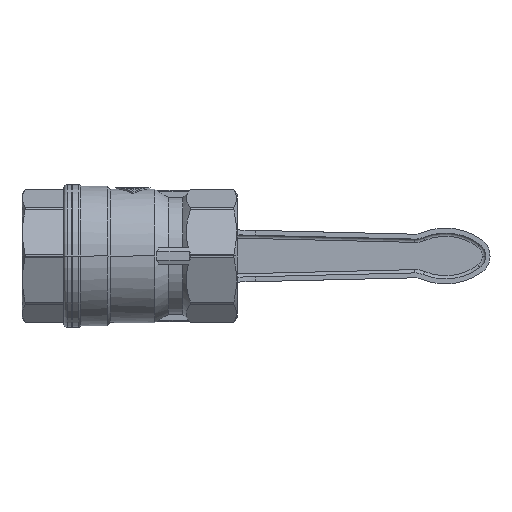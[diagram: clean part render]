
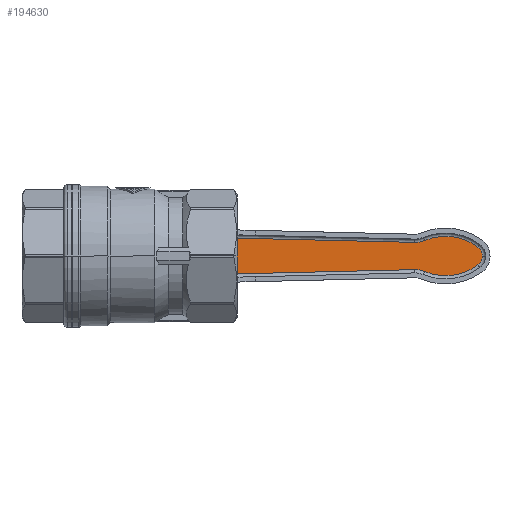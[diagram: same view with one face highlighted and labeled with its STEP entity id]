
A CAD part, front view. The second image highlights one B-rep face of the part: STEP entity #194630.
In plain terms, the highlighted planar face has unit normal (0, -1, 0).
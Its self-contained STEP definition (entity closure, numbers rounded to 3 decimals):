
#167760=CARTESIAN_POINT('',(-86.804,53.5,
-4.15));
#167770=VERTEX_POINT('',#167760);
#167800=CARTESIAN_POINT('',(0.,53.5,
-6.221));
#167810=DIRECTION('',(1.,0.,
-0.024));
#167820=VECTOR('',#167810,1.);
#167830=LINE('',#167800,#167820);
#167840=CARTESIAN_POINT('',(-30.,53.5,
-5.505));
#167850=VERTEX_POINT('',#167840);
#167860=EDGE_CURVE('',#167770,#167850,#167830,.T.);
#184750=CARTESIAN_POINT('',(-30.,53.5,
5.505));
#184760=VERTEX_POINT('',#184750);
#184900=CARTESIAN_POINT('',(-30.,53.5,
0.));
#184910=DIRECTION('',(0.,0.,-1.));
#184920=VECTOR('',#184910,1.);
#184930=LINE('',#184900,#184920);
#184940=EDGE_CURVE('',#184760,#167850,#184930,.T.);
#193990=CARTESIAN_POINT('',(-125.867,53.5,
15.));
#194000=DIRECTION('',(0.,-1.,0.));
#194010=DIRECTION('',(1.,0.,0.));
#194020=AXIS2_PLACEMENT_3D('',#193990,#194000,#194010);
#194030=PLANE('',#194020);
#194040=CARTESIAN_POINT('',(0.,53.5,
6.221));
#194050=DIRECTION('',(1.,0.,
0.024));
#194060=VECTOR('',#194050,1.);
#194070=LINE('',#194040,#194060);
#194080=CARTESIAN_POINT('',(-86.804,53.5,
4.15));
#194090=VERTEX_POINT('',#194080);
#194100=EDGE_CURVE('',#194090,#184760,#194070,.T.);
#194110=ORIENTED_EDGE('',*,*,#194100,.F.);
#194120=ORIENTED_EDGE('',*,*,#184940,.F.);
#194130=ORIENTED_EDGE('',*,*,#167860,.T.);
#194140=CARTESIAN_POINT('',(-86.983,53.5,
-11.648));
#194150=DIRECTION('',(0.,1.,0.));
#194160=DIRECTION('',(-1.,0.,0.));
#194170=AXIS2_PLACEMENT_3D('',#194140,#194150,#194160);
#194180=CIRCLE('',#194170,7.5);
#194190=CARTESIAN_POINT('',(-89.89,53.5,
-4.735));
#194200=VERTEX_POINT('',#194190);
#194210=EDGE_CURVE('',#194200,#167770,#194180,.T.);
#194220=ORIENTED_EDGE('',*,*,#194210,.T.);
#194230=CARTESIAN_POINT('',(-96.262,53.5,
10.415));
#194240=DIRECTION('',(0.,1.,0.));
#194250=DIRECTION('',(-1.,0.,0.));
#194260=AXIS2_PLACEMENT_3D('',#194230,#194240,#194250);
#194270=CIRCLE('',#194260,16.435);
#194280=CARTESIAN_POINT('',(-106.145,53.5,
-2.717));
#194290=VERTEX_POINT('',#194280);
#194300=EDGE_CURVE('',#194200,#194290,#194270,.T.);
#194310=ORIENTED_EDGE('',*,*,#194300,.F.);
#194320=CARTESIAN_POINT('',(-104.101,53.5,
0.));
#194330=DIRECTION('',(0.,1.,0.));
#194340=DIRECTION('',(-1.,0.,0.));
#194350=AXIS2_PLACEMENT_3D('',#194320,#194330,#194340);
#194360=CIRCLE('',#194350,3.4);
#194370=CARTESIAN_POINT('',(-107.501,53.5,
0.));
#194380=VERTEX_POINT('',#194370);
#194390=EDGE_CURVE('',#194290,#194380,#194360,.T.);
#194400=ORIENTED_EDGE('',*,*,#194390,.F.);
#194410=CARTESIAN_POINT('',(-106.145,53.5,
2.717));
#194420=VERTEX_POINT('',#194410);
#194430=EDGE_CURVE('',#194380,#194420,#194360,.T.);
#194440=ORIENTED_EDGE('',*,*,#194430,.F.);
#194450=CARTESIAN_POINT('',(-96.262,53.5,
-10.415));
#194460=DIRECTION('',(0.,1.,0.));
#194470=DIRECTION('',(-1.,0.,0.));
#194480=AXIS2_PLACEMENT_3D('',#194450,#194460,#194470);
#194490=CIRCLE('',#194480,16.435);
#194500=CARTESIAN_POINT('',(-89.89,53.5,
4.735));
#194510=VERTEX_POINT('',#194500);
#194520=EDGE_CURVE('',#194420,#194510,#194490,.T.);
#194530=ORIENTED_EDGE('',*,*,#194520,.F.);
#194540=CARTESIAN_POINT('',(-86.983,53.5,
11.648));
#194550=DIRECTION('',(0.,1.,0.));
#194560=DIRECTION('',(-1.,0.,0.));
#194570=AXIS2_PLACEMENT_3D('',#194540,#194550,#194560);
#194580=CIRCLE('',#194570,7.5);
#194590=EDGE_CURVE('',#194090,#194510,#194580,.T.);
#194600=ORIENTED_EDGE('',*,*,#194590,.T.);
#194610=EDGE_LOOP('',(#194600,#194530,#194440,#194400,#194310,#194220,
#194130,#194120,#194110));
#194620=FACE_OUTER_BOUND('',#194610,.T.);
#194630=ADVANCED_FACE('',(#194620),#194030,.T.);
